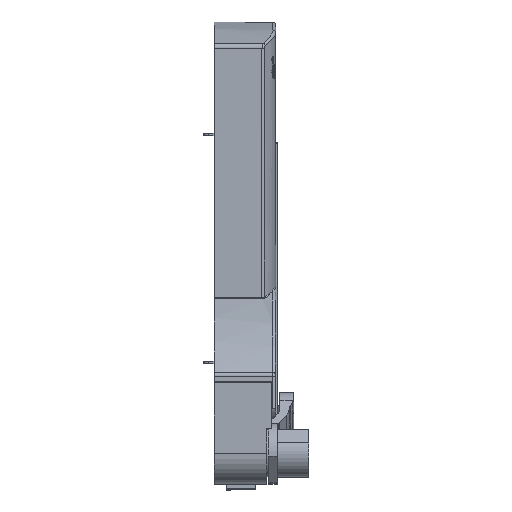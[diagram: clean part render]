
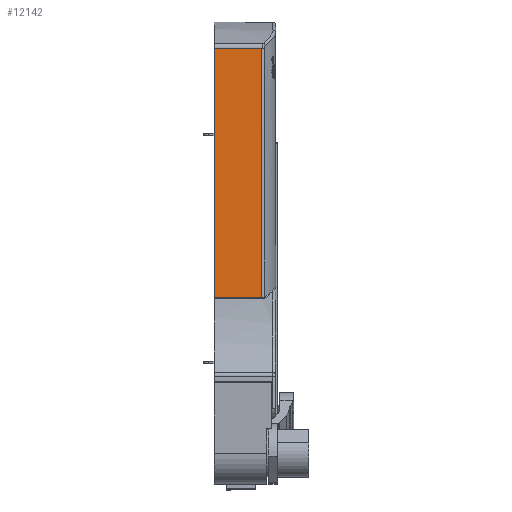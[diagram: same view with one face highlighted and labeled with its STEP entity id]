
A CAD part, top view. The second image highlights one B-rep face of the part: STEP entity #12142.
In plain terms, the highlighted planar face has unit normal (0, 0, 1).
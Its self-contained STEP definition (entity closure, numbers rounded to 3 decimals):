
#990 = VECTOR ( 'NONE', #1984, 1000. ) ;
#991 = VECTOR ( 'NONE', #1987, 1000. ) ;
#992 = VECTOR ( 'NONE', #1990, 1000. ) ;
#1982 = LINE ( 'NONE', #1983, #990 ) ;
#1983 = CARTESIAN_POINT ( 'NONE',  ( 26.858, 68.229, 24.257 ) ) ;
#1984 = DIRECTION ( 'NONE',  ( 1., 0., 0. ) ) ;
#1985 = LINE ( 'NONE', #1986, #991 ) ;
#1986 = CARTESIAN_POINT ( 'NONE',  ( 26.858, 101.957, 24.257 ) ) ;
#1987 = DIRECTION ( 'NONE',  ( 0., 1., 0. ) ) ;
#1988 = LINE ( 'NONE', #1989, #992 ) ;
#1989 = CARTESIAN_POINT ( 'NONE',  ( 53., 208.25, 24.257 ) ) ;
#1990 = DIRECTION ( 'NONE',  ( -1., 0., 0. ) ) ;
#3096 = VECTOR ( 'NONE', #14514, 1000. ) ;
#9279 = AXIS2_PLACEMENT_3D ( 'NONE', #14106, #14117, #14118 ) ;
#9669 = VERTEX_POINT ( 'NONE', #13166 ) ;
#9674 = VERTEX_POINT ( 'NONE', #13171 ) ;
#9841 = VERTEX_POINT ( 'NONE', #13338 ) ;
#9856 = VERTEX_POINT ( 'NONE', #13353 ) ;
#12142 = ADVANCED_FACE ( 'NONE', ( #14113 ), #14114, .F. ) ;
#12261 = EDGE_CURVE ( 'NONE', #9669, #9674, #14494, .T. ) ;
#13166 = CARTESIAN_POINT ( 'NONE',  ( 0., 208.25, 24.257 ) ) ;
#13171 = CARTESIAN_POINT ( 'NONE',  ( 0., 68.229, 24.257 ) ) ;
#13338 = CARTESIAN_POINT ( 'NONE',  ( 26.858, 68.229, 24.257 ) ) ;
#13353 = CARTESIAN_POINT ( 'NONE',  ( 26.858, 208.25, 24.257 ) ) ;
#14106 = CARTESIAN_POINT ( 'NONE',  ( 53., 101.957, 24.257 ) ) ;
#14113 = FACE_OUTER_BOUND ( 'NONE', #16346, .T. ) ;
#14114 = PLANE ( 'NONE',  #9279 ) ;
#14117 = DIRECTION ( 'NONE',  ( 0., 0., -1. ) ) ;
#14118 = DIRECTION ( 'NONE',  ( 0., 1., 0. ) ) ;
#14494 = LINE ( 'NONE', #14506, #3096 ) ;
#14506 = CARTESIAN_POINT ( 'NONE',  ( 0., 101.957, 24.257 ) ) ;
#14514 = DIRECTION ( 'NONE',  ( 0., -1., 0. ) ) ;
#16346 = EDGE_LOOP ( 'NONE', ( #17786, #17787, #17788, #17789 ) ) ;
#17786 = ORIENTED_EDGE ( 'NONE', *, *, #12261, .T. ) ;
#17787 = ORIENTED_EDGE ( 'NONE', *, *, #19695, .T. ) ;
#17788 = ORIENTED_EDGE ( 'NONE', *, *, #19696, .T. ) ;
#17789 = ORIENTED_EDGE ( 'NONE', *, *, #19697, .T. ) ;
#19695 = EDGE_CURVE ( 'NONE', #9674, #9841, #1982, .T. ) ;
#19696 = EDGE_CURVE ( 'NONE', #9841, #9856, #1985, .T. ) ;
#19697 = EDGE_CURVE ( 'NONE', #9856, #9669, #1988, .T. ) ;
